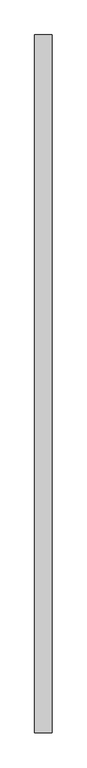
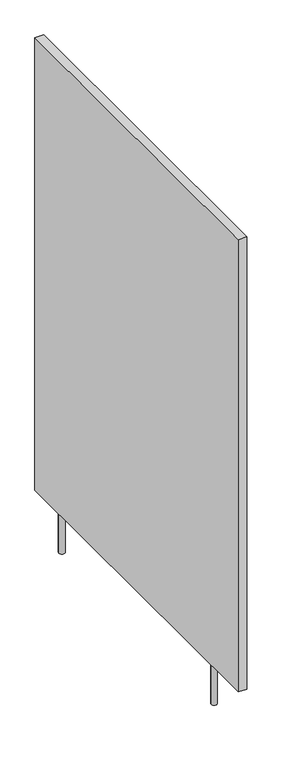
"""IFC4 building model written with IfcOpenShell, lengths in millimetres: proxy geometry, 厕所隔断 4 3D : 末端(落地)."""

from ifc_helpers import new_model, si_unit, point, frame, frame_2d, origin, origin_with_axes, place, context, project, spatial, polyline, circle_curve, trimmed, segment, composite_curve, outline, extrude, source, transform, mapped, element, save


def specialty_equipment_3a5ac14c(model_context):
    return source(origin(), model_context, "Body", "SweptSolid", [
        extrude(outline(polyline([(-790.0, 1315.0), (-760.0, 1315.0), (-760.0, 100.0), (-790.0, 100.0), (-790.0, 1315.0)])), frame((0.0, 0.0, 150.0), z_axis=(0.0, 0.0, 1.0), x_axis=(1.0, 0.0, 0.0)), (0.0, 0.0, 1.0), 1650.0),
        extrude(outline(composite_curve([segment(trimmed(circle_curve(frame_2d((-775.0, 270.108943)), 10.0), [point((-785.0, 270.108943))], [point((-765.0, 270.108943))], False, "CARTESIAN"), True, "CONTINUOUS"), segment(trimmed(circle_curve(frame_2d((-775.0, 270.108943)), 10.0), [point((-765.0, 270.108943))], [point((-785.0, 270.108943))], False, "CARTESIAN"), True, "CONTINUOUS")], self_intersect=False)), origin_with_axes(), (0.0, 0.0, 1.0), 150.0),
        extrude(outline(composite_curve([segment(trimmed(circle_curve(frame_2d((-775.0, 1180.108943)), 10.0), [point((-785.0, 1180.108943))], [point((-765.0, 1180.108943))], False, "CARTESIAN"), True, "CONTINUOUS"), segment(trimmed(circle_curve(frame_2d((-775.0, 1180.108943)), 10.0), [point((-765.0, 1180.108943))], [point((-785.0, 1180.108943))], False, "CARTESIAN"), True, "CONTINUOUS")], self_intersect=False)), origin_with_axes(), (0.0, 0.0, 1.0), 150.0),
    ])


if __name__ == "__main__":
    model = new_model("IFC4")
    model_context = context("Model", 3, world=origin())
    ifc_project = project(units=[si_unit("LENGTHUNIT", "METRE", prefix="MILLI")], contexts=[model_context])
    site = spatial("IfcSite", under=ifc_project)
    building = spatial("IfcBuilding", under=site)
    placement = place(None, origin())
    specialty_equipment_shape = specialty_equipment_3a5ac14c(model_context)
    element("IfcBuildingElementProxy", 1, Name="厕所隔断 4 3D : 末端(落地)", ObjectType="厕所隔断 4 3D : 末端(落地)", at=placement, inside=building, context=model_context, shape_type="MappedRepresentation", body=[
        mapped(specialty_equipment_shape, transform((0.0, 0.0, 0.0), x_axis=(1.0, 0.0, 0.0), y_axis=(0.0, 1.0, 0.0), z_axis=(0.0, 0.0, 1.0))),
    ])
    save(model, "model.ifc")
